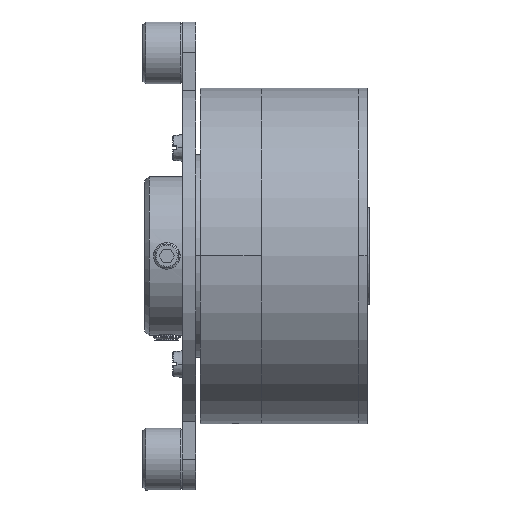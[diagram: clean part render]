
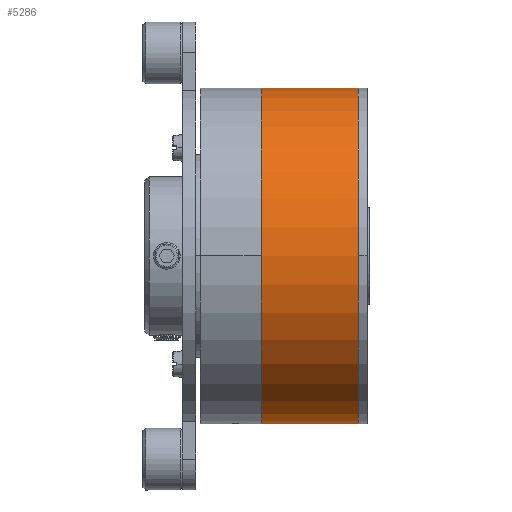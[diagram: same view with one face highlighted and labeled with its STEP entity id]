
A CAD part, top view. The second image highlights one B-rep face of the part: STEP entity #5286.
In plain terms, the highlighted cylindrical face has radius 19 mm (diameter 38 mm), a partial arc.
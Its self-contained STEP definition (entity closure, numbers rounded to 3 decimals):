
#1011 = CARTESIAN_POINT ( 'NONE',  ( 27.584, 13.339, 14.563 ) ) ;
#1140 = CIRCLE ( 'NONE', #12154, 19. ) ;
#2274 = ORIENTED_EDGE ( 'NONE', *, *, #14129, .T. ) ;
#2344 = ORIENTED_EDGE ( 'NONE', *, *, #14158, .T. ) ;
#2407 = ORIENTED_EDGE ( 'NONE', *, *, #14124, .F. ) ;
#2453 = DIRECTION ( 'NONE',  ( 0., 1., 0. ) ) ;
#2487 = ORIENTED_EDGE ( 'NONE', *, *, #14105, .F. ) ;
#2729 = DIRECTION ( 'NONE',  ( 0., 1., 0. ) ) ;
#4394 = VECTOR ( 'NONE', #16918, 1000. ) ;
#4768 = VECTOR ( 'NONE', #6492, 1000. ) ;
#5084 = CARTESIAN_POINT ( 'NONE',  ( 27.584, 32.339, 14.563 ) ) ;
#5141 = DIRECTION ( 'NONE',  ( 1., 0., 0. ) ) ;
#5213 = LINE ( 'NONE', #5084, #4768 ) ;
#5286 = ADVANCED_FACE ( 'NONE', ( #14011 ), #11147, .T. ) ;
#5469 = CARTESIAN_POINT ( 'NONE',  ( 27.584, -5.661, 14.563 ) ) ;
#6492 = DIRECTION ( 'NONE',  ( 1., 0., 0. ) ) ;
#6720 = CARTESIAN_POINT ( 'NONE',  ( 16.584, -5.661, 14.563 ) ) ;
#9211 = AXIS2_PLACEMENT_3D ( 'NONE', #14570, #13196, #2729 ) ;
#9388 = CARTESIAN_POINT ( 'NONE',  ( 27.584, 32.339, 14.563 ) ) ;
#9500 = VERTEX_POINT ( 'NONE', #14426 ) ;
#9659 = VERTEX_POINT ( 'NONE', #6720 ) ;
#9828 = VERTEX_POINT ( 'NONE', #9388 ) ;
#9841 = VERTEX_POINT ( 'NONE', #5469 ) ;
#10343 = DIRECTION ( 'NONE',  ( 1., 0., 0. ) ) ;
#11147 = CYLINDRICAL_SURFACE ( 'NONE', #9211, 19. ) ;
#12154 = AXIS2_PLACEMENT_3D ( 'NONE', #12984, #5141, #14356 ) ;
#12155 = AXIS2_PLACEMENT_3D ( 'NONE', #1011, #10343, #2453 ) ;
#12984 = CARTESIAN_POINT ( 'NONE',  ( 16.584, 13.339, 14.563 ) ) ;
#13196 = DIRECTION ( 'NONE',  ( 1., 0., 0. ) ) ;
#14011 = FACE_OUTER_BOUND ( 'NONE', #14285, .T. ) ;
#14105 = EDGE_CURVE ( 'NONE', #9500, #9828, #5213, .T. ) ;
#14124 = EDGE_CURVE ( 'NONE', #9828, #9841, #15297, .T. ) ;
#14129 = EDGE_CURVE ( 'NONE', #9500, #9659, #1140, .T. ) ;
#14158 = EDGE_CURVE ( 'NONE', #9659, #9841, #14885, .T. ) ;
#14285 = EDGE_LOOP ( 'NONE', ( #2274, #2344, #2407, #2487 ) ) ;
#14292 = CARTESIAN_POINT ( 'NONE',  ( 27.584, -5.661, 14.563 ) ) ;
#14356 = DIRECTION ( 'NONE',  ( 0., 1., 0. ) ) ;
#14426 = CARTESIAN_POINT ( 'NONE',  ( 16.584, 32.339, 14.563 ) ) ;
#14570 = CARTESIAN_POINT ( 'NONE',  ( 27.584, 13.339, 14.563 ) ) ;
#14885 = LINE ( 'NONE', #14292, #4394 ) ;
#15297 = CIRCLE ( 'NONE', #12155, 19. ) ;
#16918 = DIRECTION ( 'NONE',  ( 1., 0., 0. ) ) ;
